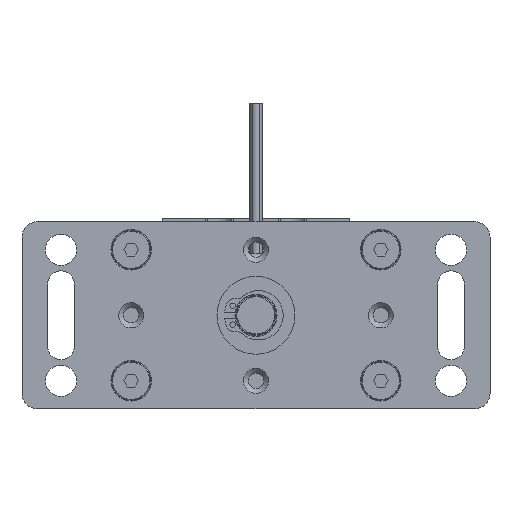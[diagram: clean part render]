
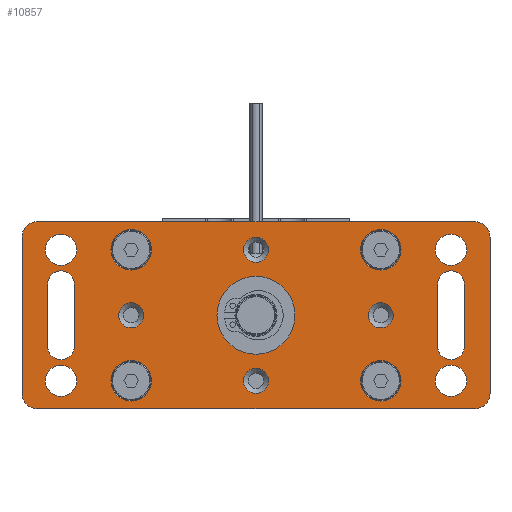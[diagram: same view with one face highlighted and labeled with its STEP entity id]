
A CAD part, front view. The second image highlights one B-rep face of the part: STEP entity #10857.
In plain terms, the highlighted planar face has unit normal (0, -1, 0).
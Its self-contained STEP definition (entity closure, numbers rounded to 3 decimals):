
#378=LINE('',#18402,#1043);
#379=LINE('',#18406,#1044);
#380=LINE('',#18413,#1045);
#381=LINE('',#18418,#1046);
#382=LINE('',#18422,#1047);
#383=LINE('',#18426,#1048);
#384=LINE('',#18449,#1049);
#385=LINE('',#18454,#1050);
#1043=VECTOR('',#15010,1000.);
#1044=VECTOR('',#15013,1000.);
#1045=VECTOR('',#15020,1000.);
#1046=VECTOR('',#15023,1000.);
#1047=VECTOR('',#15026,1000.);
#1048=VECTOR('',#15029,1000.);
#1049=VECTOR('',#15052,1000.);
#1050=VECTOR('',#15055,1000.);
#2657=ORIENTED_EDGE('',*,*,#5655,.F.);
#2658=ORIENTED_EDGE('',*,*,#5656,.F.);
#2659=ORIENTED_EDGE('',*,*,#5657,.F.);
#2660=ORIENTED_EDGE('',*,*,#5658,.F.);
#2661=ORIENTED_EDGE('',*,*,#5659,.F.);
#2662=ORIENTED_EDGE('',*,*,#5660,.T.);
#2663=ORIENTED_EDGE('',*,*,#5661,.F.);
#2664=ORIENTED_EDGE('',*,*,#5662,.T.);
#2665=ORIENTED_EDGE('',*,*,#5663,.T.);
#2666=ORIENTED_EDGE('',*,*,#5664,.T.);
#2667=ORIENTED_EDGE('',*,*,#5665,.T.);
#2668=ORIENTED_EDGE('',*,*,#5666,.T.);
#2669=ORIENTED_EDGE('',*,*,#5667,.T.);
#2670=ORIENTED_EDGE('',*,*,#5668,.T.);
#2671=ORIENTED_EDGE('',*,*,#5669,.T.);
#2672=ORIENTED_EDGE('',*,*,#5670,.F.);
#2673=ORIENTED_EDGE('',*,*,#5671,.T.);
#2674=ORIENTED_EDGE('',*,*,#5672,.F.);
#2675=ORIENTED_EDGE('',*,*,#5673,.F.);
#2676=ORIENTED_EDGE('',*,*,#5674,.F.);
#2677=ORIENTED_EDGE('',*,*,#5675,.F.);
#2678=ORIENTED_EDGE('',*,*,#5676,.T.);
#2679=ORIENTED_EDGE('',*,*,#5677,.T.);
#2680=ORIENTED_EDGE('',*,*,#5678,.T.);
#2681=ORIENTED_EDGE('',*,*,#5679,.T.);
#2682=ORIENTED_EDGE('',*,*,#5680,.T.);
#2683=ORIENTED_EDGE('',*,*,#5681,.T.);
#2684=ORIENTED_EDGE('',*,*,#5682,.T.);
#2685=ORIENTED_EDGE('',*,*,#5683,.T.);
#5655=EDGE_CURVE('',#7191,#7192,#8157,.T.);
#5656=EDGE_CURVE('',#7193,#7191,#378,.T.);
#5657=EDGE_CURVE('',#7194,#7193,#8158,.T.);
#5658=EDGE_CURVE('',#7192,#7194,#379,.T.);
#5659=EDGE_CURVE('',#7195,#7195,#8159,.T.);
#5660=EDGE_CURVE('',#7196,#7196,#8160,.T.);
#5661=EDGE_CURVE('',#7197,#7197,#8161,.T.);
#5662=EDGE_CURVE('',#7198,#7199,#380,.T.);
#5663=EDGE_CURVE('',#7199,#7200,#8162,.T.);
#5664=EDGE_CURVE('',#7200,#7201,#381,.T.);
#5665=EDGE_CURVE('',#7201,#7202,#8163,.T.);
#5666=EDGE_CURVE('',#7202,#7203,#382,.T.);
#5667=EDGE_CURVE('',#7203,#7204,#8164,.T.);
#5668=EDGE_CURVE('',#7204,#7205,#383,.T.);
#5669=EDGE_CURVE('',#7205,#7198,#8165,.T.);
#5670=EDGE_CURVE('',#7206,#7206,#8166,.T.);
#5671=EDGE_CURVE('',#7207,#7207,#8167,.T.);
#5672=EDGE_CURVE('',#7208,#7208,#8168,.T.);
#5673=EDGE_CURVE('',#7209,#7209,#8169,.T.);
#5674=EDGE_CURVE('',#7210,#7210,#8170,.T.);
#5675=EDGE_CURVE('',#7211,#7211,#8171,.T.);
#5676=EDGE_CURVE('',#7212,#7212,#8172,.F.);
#5677=EDGE_CURVE('',#7213,#7213,#8173,.F.);
#5678=EDGE_CURVE('',#7214,#7214,#8174,.F.);
#5679=EDGE_CURVE('',#7215,#7215,#8175,.F.);
#5680=EDGE_CURVE('',#7216,#7217,#384,.T.);
#5681=EDGE_CURVE('',#7217,#7218,#8176,.T.);
#5682=EDGE_CURVE('',#7218,#7219,#385,.T.);
#5683=EDGE_CURVE('',#7219,#7216,#8177,.T.);
#7191=VERTEX_POINT('',#18400);
#7192=VERTEX_POINT('',#18401);
#7193=VERTEX_POINT('',#18403);
#7194=VERTEX_POINT('',#18405);
#7195=VERTEX_POINT('',#18408);
#7196=VERTEX_POINT('',#18410);
#7197=VERTEX_POINT('',#18412);
#7198=VERTEX_POINT('',#18414);
#7199=VERTEX_POINT('',#18415);
#7200=VERTEX_POINT('',#18417);
#7201=VERTEX_POINT('',#18419);
#7202=VERTEX_POINT('',#18421);
#7203=VERTEX_POINT('',#18423);
#7204=VERTEX_POINT('',#18425);
#7205=VERTEX_POINT('',#18427);
#7206=VERTEX_POINT('',#18430);
#7207=VERTEX_POINT('',#18432);
#7208=VERTEX_POINT('',#18434);
#7209=VERTEX_POINT('',#18436);
#7210=VERTEX_POINT('',#18438);
#7211=VERTEX_POINT('',#18440);
#7212=VERTEX_POINT('',#18442);
#7213=VERTEX_POINT('',#18444);
#7214=VERTEX_POINT('',#18446);
#7215=VERTEX_POINT('',#18448);
#7216=VERTEX_POINT('',#18450);
#7217=VERTEX_POINT('',#18451);
#7218=VERTEX_POINT('',#18453);
#7219=VERTEX_POINT('',#18455);
#8157=CIRCLE('',#13483,4.25);
#8158=CIRCLE('',#13484,4.25);
#8159=CIRCLE('',#13485,12.5);
#8160=CIRCLE('',#13486,5.);
#8161=CIRCLE('',#13487,5.);
#8162=CIRCLE('',#13488,5.);
#8163=CIRCLE('',#13489,5.);
#8164=CIRCLE('',#13490,5.);
#8165=CIRCLE('',#13491,5.);
#8166=CIRCLE('',#13492,5.);
#8167=CIRCLE('',#13493,5.);
#8168=CIRCLE('',#13494,6.5);
#8169=CIRCLE('',#13495,6.5);
#8170=CIRCLE('',#13496,6.5);
#8171=CIRCLE('',#13497,6.5);
#8172=CIRCLE('',#13498,3.999);
#8173=CIRCLE('',#13499,3.999);
#8174=CIRCLE('',#13500,3.999);
#8175=CIRCLE('',#13501,3.999);
#8176=CIRCLE('',#13502,4.25);
#8177=CIRCLE('',#13503,4.25);
#8766=EDGE_LOOP('',(#2657,#2658,#2659,#2660));
#8767=EDGE_LOOP('',(#2661));
#8768=EDGE_LOOP('',(#2662));
#8769=EDGE_LOOP('',(#2663));
#8770=EDGE_LOOP('',(#2664,#2665,#2666,#2667,#2668,#2669,#2670,#2671));
#8771=EDGE_LOOP('',(#2672));
#8772=EDGE_LOOP('',(#2673));
#8773=EDGE_LOOP('',(#2674));
#8774=EDGE_LOOP('',(#2675));
#8775=EDGE_LOOP('',(#2676));
#8776=EDGE_LOOP('',(#2677));
#8777=EDGE_LOOP('',(#2678));
#8778=EDGE_LOOP('',(#2679));
#8779=EDGE_LOOP('',(#2680));
#8780=EDGE_LOOP('',(#2681));
#8781=EDGE_LOOP('',(#2682,#2683,#2684,#2685));
#9728=FACE_BOUND('',#8766,.T.);
#9729=FACE_BOUND('',#8767,.T.);
#9730=FACE_BOUND('',#8768,.T.);
#9731=FACE_BOUND('',#8769,.T.);
#9732=FACE_BOUND('',#8770,.T.);
#9733=FACE_BOUND('',#8771,.T.);
#9734=FACE_BOUND('',#8772,.T.);
#9735=FACE_BOUND('',#8773,.T.);
#9736=FACE_BOUND('',#8774,.T.);
#9737=FACE_BOUND('',#8775,.T.);
#9738=FACE_BOUND('',#8776,.T.);
#9739=FACE_BOUND('',#8777,.T.);
#9740=FACE_BOUND('',#8778,.T.);
#9741=FACE_BOUND('',#8779,.T.);
#9742=FACE_BOUND('',#8780,.T.);
#9743=FACE_BOUND('',#8781,.T.);
#10575=PLANE('',#13482);
#10857=ADVANCED_FACE('',(#9728,#9729,#9730,#9731,#9732,#9733,#9734,#9735,
#9736,#9737,#9738,#9739,#9740,#9741,#9742,#9743),#10575,.T.);
#13482=AXIS2_PLACEMENT_3D('',#18398,#15006,#15007);
#13483=AXIS2_PLACEMENT_3D('',#18399,#15008,#15009);
#13484=AXIS2_PLACEMENT_3D('',#18404,#15011,#15012);
#13485=AXIS2_PLACEMENT_3D('',#18407,#15014,#15015);
#13486=AXIS2_PLACEMENT_3D('',#18409,#15016,#15017);
#13487=AXIS2_PLACEMENT_3D('',#18411,#15018,#15019);
#13488=AXIS2_PLACEMENT_3D('',#18416,#15021,#15022);
#13489=AXIS2_PLACEMENT_3D('',#18420,#15024,#15025);
#13490=AXIS2_PLACEMENT_3D('',#18424,#15027,#15028);
#13491=AXIS2_PLACEMENT_3D('',#18428,#15030,#15031);
#13492=AXIS2_PLACEMENT_3D('',#18429,#15032,#15033);
#13493=AXIS2_PLACEMENT_3D('',#18431,#15034,#15035);
#13494=AXIS2_PLACEMENT_3D('',#18433,#15036,#15037);
#13495=AXIS2_PLACEMENT_3D('',#18435,#15038,#15039);
#13496=AXIS2_PLACEMENT_3D('',#18437,#15040,#15041);
#13497=AXIS2_PLACEMENT_3D('',#18439,#15042,#15043);
#13498=AXIS2_PLACEMENT_3D('',#18441,#15044,#15045);
#13499=AXIS2_PLACEMENT_3D('',#18443,#15046,#15047);
#13500=AXIS2_PLACEMENT_3D('',#18445,#15048,#15049);
#13501=AXIS2_PLACEMENT_3D('',#18447,#15050,#15051);
#13502=AXIS2_PLACEMENT_3D('',#18452,#15053,#15054);
#13503=AXIS2_PLACEMENT_3D('',#18456,#15056,#15057);
#15006=DIRECTION('',(0.,-1.,0.));
#15007=DIRECTION('',(0.,0.,-1.));
#15008=DIRECTION('',(0.,-1.,0.));
#15009=DIRECTION('',(1.,0.,0.));
#15010=DIRECTION('',(0.,0.,1.));
#15011=DIRECTION('',(0.,-1.,0.));
#15012=DIRECTION('',(-1.,0.,0.));
#15013=DIRECTION('',(0.,0.,-1.));
#15014=DIRECTION('',(0.,-1.,0.));
#15015=DIRECTION('',(0.,0.,-1.));
#15016=DIRECTION('',(0.,1.,0.));
#15017=DIRECTION('',(1.,0.,0.));
#15018=DIRECTION('',(0.,-1.,0.));
#15019=DIRECTION('',(1.,0.,0.));
#15020=DIRECTION('',(0.,0.,1.));
#15021=DIRECTION('',(0.,-1.,0.));
#15022=DIRECTION('',(0.,0.,-1.));
#15023=DIRECTION('',(-1.,0.,0.));
#15024=DIRECTION('',(0.,-1.,0.));
#15025=DIRECTION('',(0.,0.,-1.));
#15026=DIRECTION('',(0.,0.,-1.));
#15027=DIRECTION('',(0.,-1.,0.));
#15028=DIRECTION('',(0.,0.,-1.));
#15029=DIRECTION('',(1.,0.,0.));
#15030=DIRECTION('',(0.,-1.,0.));
#15031=DIRECTION('',(0.,0.,-1.));
#15032=DIRECTION('',(0.,-1.,0.));
#15033=DIRECTION('',(1.,0.,0.));
#15034=DIRECTION('',(0.,1.,0.));
#15035=DIRECTION('',(1.,0.,0.));
#15036=DIRECTION('',(0.,-1.,0.));
#15037=DIRECTION('',(1.,0.,0.));
#15038=DIRECTION('',(0.,-1.,0.));
#15039=DIRECTION('',(0.,0.,-1.));
#15040=DIRECTION('',(0.,-1.,0.));
#15041=DIRECTION('',(0.,0.,-1.));
#15042=DIRECTION('',(0.,-1.,0.));
#15043=DIRECTION('',(0.,0.,-1.));
#15044=DIRECTION('',(0.,-1.,0.));
#15045=DIRECTION('',(0.,0.,-1.));
#15046=DIRECTION('',(0.,-1.,0.));
#15047=DIRECTION('',(0.,0.,-1.));
#15048=DIRECTION('',(0.,-1.,0.));
#15049=DIRECTION('',(0.,0.,-1.));
#15050=DIRECTION('',(0.,-1.,0.));
#15051=DIRECTION('',(0.,0.,-1.));
#15052=DIRECTION('',(0.,0.,1.));
#15053=DIRECTION('',(0.,1.,0.));
#15054=DIRECTION('',(-1.,0.,0.));
#15055=DIRECTION('',(0.,0.,-1.));
#15056=DIRECTION('',(0.,1.,0.));
#15057=DIRECTION('',(1.,0.,0.));
#18398=CARTESIAN_POINT('',(-75.,0.,-30.));
#18399=CARTESIAN_POINT('',(-62.5,0.,10.));
#18400=CARTESIAN_POINT('',(-58.25,0.,10.));
#18401=CARTESIAN_POINT('',(-66.75,0.,10.));
#18402=CARTESIAN_POINT('',(-58.25,0.,10.));
#18403=CARTESIAN_POINT('',(-58.25,0.,-10.));
#18404=CARTESIAN_POINT('',(-62.5,0.,-10.));
#18405=CARTESIAN_POINT('',(-66.75,0.,-10.));
#18406=CARTESIAN_POINT('',(-66.75,0.,10.));
#18407=CARTESIAN_POINT('',(0.,0.,0.));
#18408=CARTESIAN_POINT('',(0.,0.,-12.5));
#18409=CARTESIAN_POINT('',(62.5,0.,-21.));
#18410=CARTESIAN_POINT('',(67.5,0.,-21.));
#18411=CARTESIAN_POINT('',(62.5,0.,21.));
#18412=CARTESIAN_POINT('',(67.5,0.,21.));
#18413=CARTESIAN_POINT('',(75.,0.,-30.));
#18414=CARTESIAN_POINT('',(75.,0.,-25.));
#18415=CARTESIAN_POINT('',(75.,0.,25.));
#18416=CARTESIAN_POINT('',(70.,0.,25.));
#18417=CARTESIAN_POINT('',(70.,0.,30.));
#18418=CARTESIAN_POINT('',(75.,0.,30.));
#18419=CARTESIAN_POINT('',(-70.,0.,30.));
#18420=CARTESIAN_POINT('',(-70.,0.,25.));
#18421=CARTESIAN_POINT('',(-75.,0.,25.));
#18422=CARTESIAN_POINT('',(-75.,0.,30.));
#18423=CARTESIAN_POINT('',(-75.,0.,-25.));
#18424=CARTESIAN_POINT('',(-70.,0.,-25.));
#18425=CARTESIAN_POINT('',(-70.,0.,-30.));
#18426=CARTESIAN_POINT('',(-75.,0.,-30.));
#18427=CARTESIAN_POINT('',(70.,0.,-30.));
#18428=CARTESIAN_POINT('',(70.,0.,-25.));
#18429=CARTESIAN_POINT('',(-62.5,0.,-21.));
#18430=CARTESIAN_POINT('',(-57.5,0.,-21.));
#18431=CARTESIAN_POINT('',(-62.5,0.,21.));
#18432=CARTESIAN_POINT('',(-57.5,0.,21.));
#18433=CARTESIAN_POINT('',(40.,0.,21.));
#18434=CARTESIAN_POINT('',(46.5,0.,21.));
#18435=CARTESIAN_POINT('',(40.,0.,-21.));
#18436=CARTESIAN_POINT('',(40.,0.,-27.5));
#18437=CARTESIAN_POINT('',(-40.,0.,21.));
#18438=CARTESIAN_POINT('',(-40.,0.,14.5));
#18439=CARTESIAN_POINT('',(-40.,0.,-21.));
#18440=CARTESIAN_POINT('',(-40.,0.,-27.5));
#18441=CARTESIAN_POINT('',(40.,0.,0.));
#18442=CARTESIAN_POINT('',(40.,0.,-3.999));
#18443=CARTESIAN_POINT('',(0.,0.,21.));
#18444=CARTESIAN_POINT('',(0.,0.,17.002));
#18445=CARTESIAN_POINT('',(-40.,0.,0.));
#18446=CARTESIAN_POINT('',(-40.,0.,-3.999));
#18447=CARTESIAN_POINT('',(0.,0.,-21.));
#18448=CARTESIAN_POINT('',(0.,0.,-24.999));
#18449=CARTESIAN_POINT('',(58.25,0.,10.));
#18450=CARTESIAN_POINT('',(58.25,0.,-10.));
#18451=CARTESIAN_POINT('',(58.25,0.,10.));
#18452=CARTESIAN_POINT('',(62.5,0.,10.));
#18453=CARTESIAN_POINT('',(66.75,0.,10.));
#18454=CARTESIAN_POINT('',(66.75,0.,10.));
#18455=CARTESIAN_POINT('',(66.75,0.,-10.));
#18456=CARTESIAN_POINT('',(62.5,0.,-10.));
